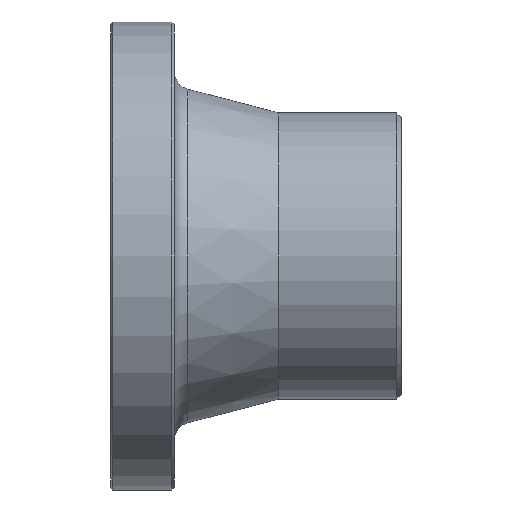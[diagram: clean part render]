
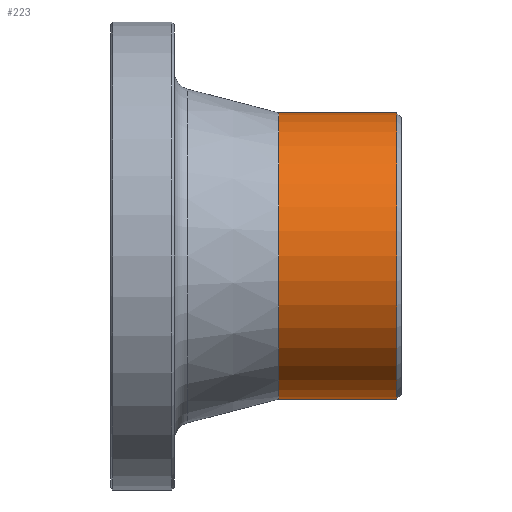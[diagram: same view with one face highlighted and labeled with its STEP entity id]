
A CAD part, front view. The second image highlights one B-rep face of the part: STEP entity #223.
In plain terms, the highlighted cylindrical face has radius 31.5 mm (diameter 63 mm), a full revolution.
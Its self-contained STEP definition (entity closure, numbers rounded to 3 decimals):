
#31=CYLINDRICAL_SURFACE('',#262,31.5);
#40=ORIENTED_EDGE('',*,*,#80,.T.);
#41=ORIENTED_EDGE('',*,*,#81,.F.);
#80=EDGE_CURVE('',#100,#100,#120,.T.);
#81=EDGE_CURVE('',#101,#101,#121,.T.);
#100=VERTEX_POINT('',#393);
#101=VERTEX_POINT('',#395);
#120=CIRCLE('',#263,31.5);
#121=CIRCLE('',#264,31.5);
#140=EDGE_LOOP('',(#40));
#141=EDGE_LOOP('',(#41));
#180=FACE_BOUND('',#140,.T.);
#181=FACE_BOUND('',#141,.T.);
#223=ADVANCED_FACE('',(#180,#181),#31,.T.);
#262=AXIS2_PLACEMENT_3D('',#391,#313,#314);
#263=AXIS2_PLACEMENT_3D('',#392,#315,#316);
#264=AXIS2_PLACEMENT_3D('',#394,#317,#318);
#313=DIRECTION('',(-1.,0.,0.));
#314=DIRECTION('',(0.,0.,1.));
#315=DIRECTION('',(-1.,0.,0.));
#316=DIRECTION('',(0.,0.,1.));
#317=DIRECTION('',(-1.,0.,0.));
#318=DIRECTION('',(0.,0.,1.));
#391=CARTESIAN_POINT('',(60.,0.,0.));
#392=CARTESIAN_POINT('',(63.,0.,0.));
#393=CARTESIAN_POINT('',(63.,0.,31.5));
#394=CARTESIAN_POINT('',(37.,0.,0.));
#395=CARTESIAN_POINT('',(37.,0.,31.5));
